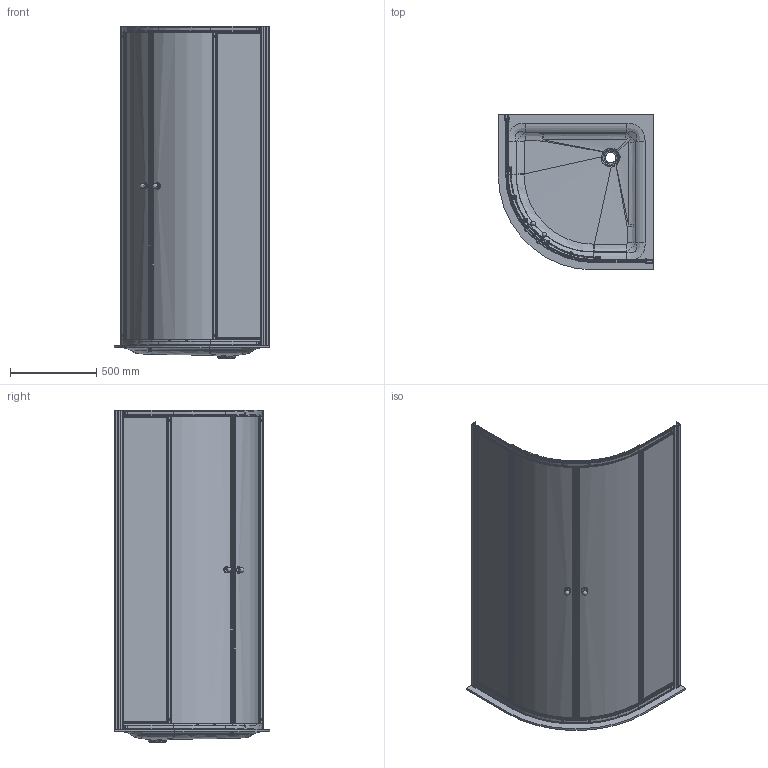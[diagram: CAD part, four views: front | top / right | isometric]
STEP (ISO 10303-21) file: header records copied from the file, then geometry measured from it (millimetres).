
FILE_DESCRIPTION(/* description */ ('PIATTO TONDO STONECRIL 90 X 90'),/* implementation_level */ '2;1');
FILE_NAME(/* name */ 'C:\Users\benassi\Desktop\dwg 3D\America tre 2019\America 3 tondo vetro 86-90.stp',/* time_stamp */ '2018-07-17T14:41:36+02:00',/* author */ ('benassi'),/* organization */ (''),/* preprocessor_version */ 'ST-DEVELOPER v16.1',/* originating_system */ 'Autodesk Inventor 2016',/* authorisation */ '');
FILE_SCHEMA (('AUTOMOTIVE_DESIGN { 1 0 10303 214 3 1 1 }'));
Length unit declared in the file: millimetre
Products named in the file (39): 10000002416_IPT_000; 10000008458; 10000008457; 10000021521; 10000021524; 10000008462; 10000009034; 404_9; 10000000713_IPT_000; 10000000715_IPT_000; 10000000716_IPT_000; Guarn-Calam-45; Calamita-45; 09030017; 10000008488; 04030281; 10000008487; 10000008551; 10000008550; 10000008482; 10000009229; 10000008547; Guarn-Calam-45_1; Calamita-45_1; 09030017_1; 10000008549; 10000008460; 10000004687_IPT_000; 10000004689_IPT_000; 10000008545; 10000021523; COPRIFES_TONDI; VITE TC 2,9-38; 10000021106; 10000013432; 10000013433; 10000013434; 10000021304; 10000021516
Assembly tree (114 placements, depth 4):
  10000021516
    10000002416_IPT_000
    10000008458  x2
    10000008457  x2
    10000021521  x2
    10000021524  x4
    10000008462  x2
    10000008547
      10000009034
      404_9
      10000000713_IPT_000  x2
      10000000715_IPT_000  x2
      10000000716_IPT_000  x2
      09030017
        Guarn-Calam-45
        Calamita-45
      10000008487  x4
        10000008488
        04030281
      10000008551  x4
      10000008550  x4
      10000008482  x4
      10000009229  x4
    10000008549
      10000009034
      404_9
      10000000713_IPT_000  x2
      10000000715_IPT_000  x2
      10000000716_IPT_000  x2
      09030017_1
        Guarn-Calam-45_1
        Calamita-45_1
      10000008487  x4
        10000008488
        04030281
      10000008551  x4
      10000008482  x4
      10000008550  x4
      10000009229  x4
    10000008460  x4
    10000004687_IPT_000  x6
    10000004689_IPT_000  x6
    10000008545  x6
    10000021523  x2
    COPRIFES_TONDI  x2
    VITE TC 2,9-38
    10000021106  x2
    10000013434  x2
      10000013432
      10000013433
    10000021304  x2
Bounding box: 900 x 900 x 1921 mm (x, y, z)
Volume: 20548469 mm3; surface area: 11141894.9 mm2
Topology: 116 solids, 116 shells, 3359 faces, 8403 edges, 5391 vertices
Faces by surface type: plane 1522, cylinder 1219, torus 296, cone 206, bspline 73, sphere 43
Full cylindrical faces by diameter (mm): 2.5 x4, 2.9 x1, 3.1 x4, 3.242 x4, 3.5 x6, 3.9 x2, 4 x12, 4.917 x8, 5 x14, 6 x14, 6.2 x8, 6.3 x2, 7 x8, 7.2 x8, 7.3 x10, 7.6 x4, 8 x24, 9 x6, 9.7 x8, 10 x8, 10.8 x18, 12 x8, 13 x8, 13.5 x16, 15 x8, 16 x16, 30.792 x4, 36.657 x4, 60 x1
Entity records: 47661 total; most frequent: CARTESIAN_POINT 12384, DIRECTION 7390, ORIENTED_EDGE 6882, EDGE_CURVE 3441, AXIS2_PLACEMENT_3D 2741, VERTEX_POINT 2257, LINE 1908, VECTOR 1908
